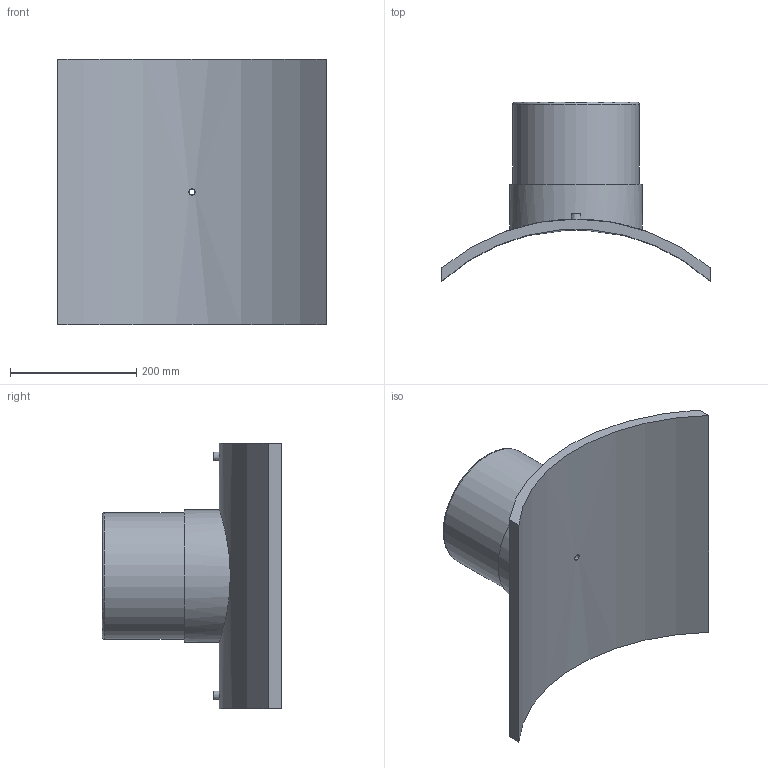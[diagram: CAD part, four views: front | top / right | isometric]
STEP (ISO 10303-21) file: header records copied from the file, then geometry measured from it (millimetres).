
FILE_DESCRIPTION(/* description */ ('PLASSON BRANCH SADDLE 630x185'),/* implementation_level */ '2;1');
FILE_NAME(/* name */ 'C:\Dropbox\KIMPROJECTS-Inventor 2019\99-16-3568-Processing\ElectroFusion Fittings\495803\stp\495803630200TN.stp',/* time_stamp */ '2024-04-04T11:53:43+02:00',/* author */ ('KIM'),/* organization */ (''),/* preprocessor_version */ 'ST-DEVELOPER v17.2',/* originating_system */ 'Autodesk Inventor 2019',/* authorisation */ '');
FILE_SCHEMA (('AUTOMOTIVE_DESIGN { 1 0 10303 214 3 1 1 }'));
Length unit declared in the file: millimetre
Products named in the file (1): 495803630200TN
Bounding box: 425 x 283.47 x 420 mm (x, y, z)
Volume: 5495199.9 mm3; surface area: 649397.1 mm2
Topology: 1 solids, 1 shells, 29 faces, 60 edges, 43 vertices
Faces by surface type: plane 13, cylinder 12, torus 2, cone 2
Full cylindrical faces by diameter (mm): 4 x2, 9.6 x1, 10 x2, 16 x1, 160 x1, 200 x1, 210 x1
Entity records: 1086 total; most frequent: CARTESIAN_POINT 400, DIRECTION 139, ORIENTED_EDGE 120, EDGE_CURVE 60, AXIS2_PLACEMENT_3D 60, VERTEX_POINT 43, EDGE_LOOP 41, CIRCLE 30
